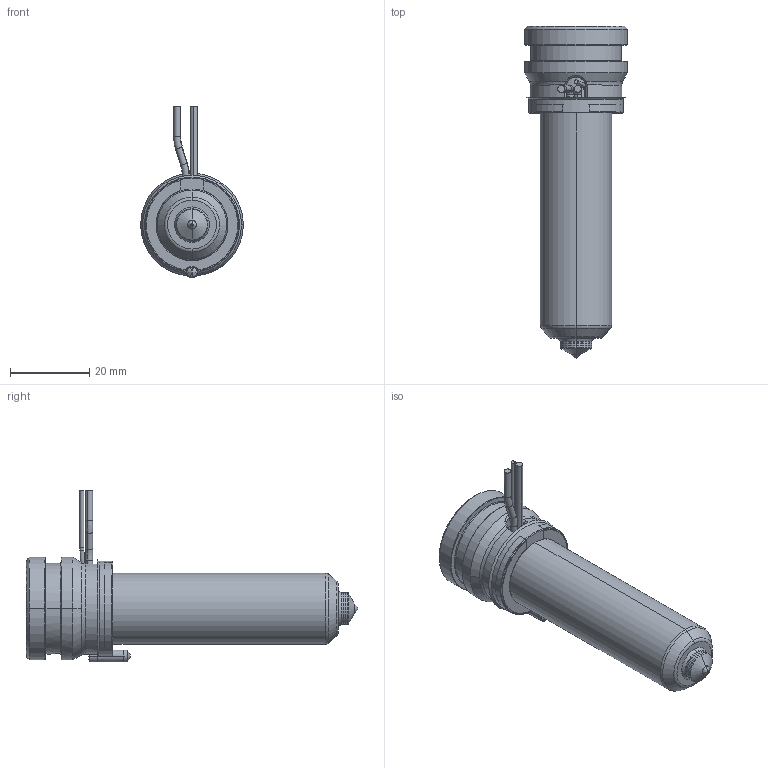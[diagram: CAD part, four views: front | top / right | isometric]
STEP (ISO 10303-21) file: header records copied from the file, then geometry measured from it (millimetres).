
FILE_DESCRIPTION((''),'2;1');
FILE_NAME('MPN-08-24-TS8-066-A','2026-02-05T11:52:31',('UPTIO'),('Thermoplay S.p.A.'),'CREO PARAMETRIC BY PTC INC, 2023494','CREO PARAMETRIC BY PTC INC, 2023494','');
FILE_SCHEMA(('CONFIG_CONTROL_DESIGN','SHAPE_APPEARANCE_LAYERS_GROUPS'));
Length unit declared in the file: millimetre
Products named in the file (1): MPN-08-24-TS8-066-A
Bounding box: 26 x 84 x 43.5 mm (x, y, z)
Volume: 17620.7 mm3; surface area: 21359.2 mm2
Topology: 2 solids, 5 shells, 548 faces, 1437 edges, 892 vertices
Faces by surface type: cylinder 178, plane 146, bspline 82, torus 64, cone 60, sphere 12, extrusion 6
Entity records: 30024 total; most frequent: CARTESIAN_POINT 13851, ORIENTED_EDGE 2854, DIRECTION 2539, EDGE_CURVE 1427, AXIS2_PLACEMENT_3D 992, VERTEX_POINT 892, EDGE_LOOP 575, VECTOR 555
